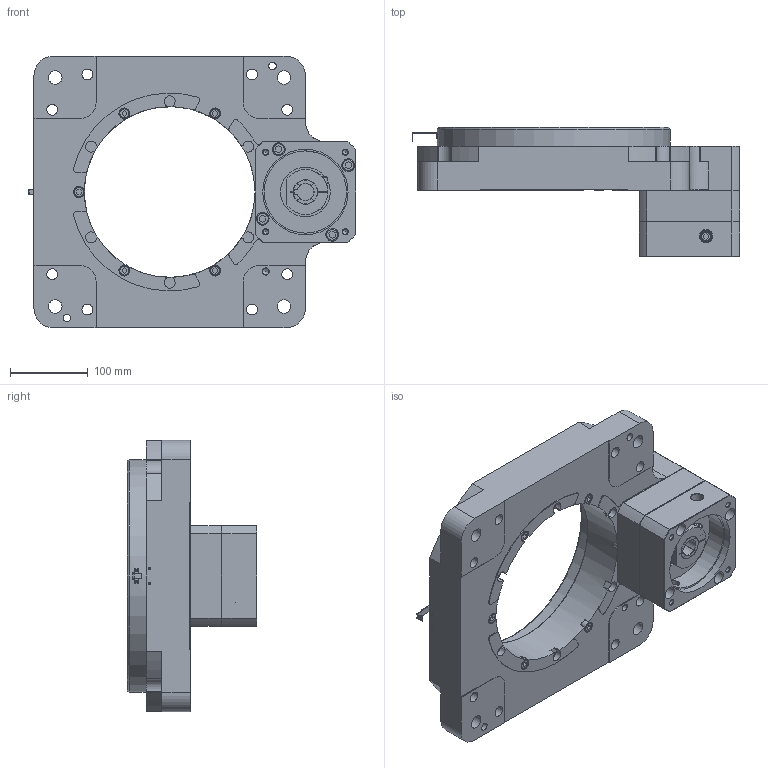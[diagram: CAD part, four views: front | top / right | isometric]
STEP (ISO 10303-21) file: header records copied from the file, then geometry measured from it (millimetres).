
FILE_DESCRIPTION(/* description */ ('STEP AP203'),/* implementation_level */ '2;1');
FILE_NAME(/* name */ 'WTN350-018-110-145-M8-22K6-76-130',/* time_stamp */ '2026-03-02T13:38:24+01:00',/* author */ ('License CC BY-ND 4.0'),/* organization */ ('CADENAS'),/* preprocessor_version */ 'ST-DEVELOPER v20',/* originating_system */ 'PARTsolutions',/* authorisation */ ' ');
FILE_SCHEMA (('CONFIG_CONTROL_DESIGN'));
Length unit declared in the file: millimetre
Products named in the file (7): WTN350-018-110-145-M8-22K6-76-130; WTN350-18-110-145-M8-22K6-76-130_Dummy; WTN350_Box_Wtn_F; WTN350_Box_Wtn; DZ350-110-145-M8x20-10-130-45.5_Base3; RLZ350-22K6-76-18.5_Input shaft3; 115-SJT(M8)-32_Lock sleeve
Assembly tree (6 placements, depth 2):
  WTN350-018-110-145-M8-22K6-76-130
    WTN350-18-110-145-M8-22K6-76-130_Dummy
    WTN350_Box_Wtn_F
    WTN350_Box_Wtn
    DZ350-110-145-M8x20-10-130-45.5_Base3
    RLZ350-22K6-76-18.5_Input shaft3
    115-SJT(M8)-32_Lock sleeve
Bounding box: 422.5 x 167 x 350 mm (x, y, z)
Volume: 6444157.9 mm3; surface area: 567025.3 mm2
Topology: 5 solids, 5 shells, 609 faces, 1564 edges, 1014 vertices
Faces by surface type: plane 268, cylinder 224, cone 94, torus 23
Full cylindrical faces by diameter (mm): 2.459 x4, 2.5 x2, 3 x2, 5 x1, 6.647 x4, 6.8 x1, 8 x1, 8.376 x12, 8.5 x5, 10 x4, 12.88 x1, 13 x7, 14 x8, 16 x6, 16.5 x4, 17.5 x4, 20 x8, 45 x2, 50 x1, 64 x1, 75 x1, 106 x1, 110 x1, 220 x1, 250 x1, 262 x1, 300 x1, 340 x1
Entity records: 17624 total; most frequent: CARTESIAN_POINT 3338, DIRECTION 3006, ORIENTED_EDGE 2656, EDGE_CURVE 1328, AXIS2_PLACEMENT_3D 1162, VERTEX_POINT 976, FACE_BOUND 898, EDGE_LOOP 869
